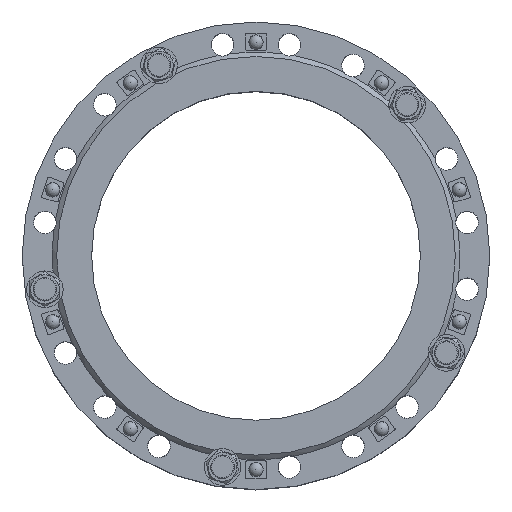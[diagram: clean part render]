
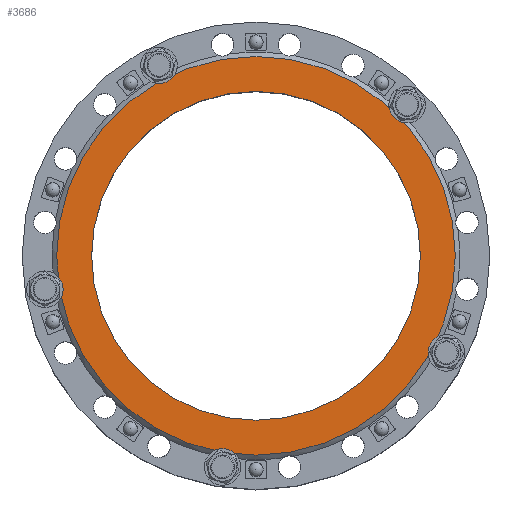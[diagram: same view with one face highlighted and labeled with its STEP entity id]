
A CAD part, top view. The second image highlights one B-rep face of the part: STEP entity #3686.
In plain terms, the highlighted planar face has unit normal (0, 0, 1) as drawn and (0, 0, -1) by its records, which use the part's own axes.
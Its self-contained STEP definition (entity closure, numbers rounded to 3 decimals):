
#3686=ADVANCED_FACE('',(#5786,#5788),#5790,.F.);
#5786=FACE_BOUND('',#5787,.T.);
#5787=EDGE_LOOP('',(#8443));
#5788=FACE_BOUND('',#5789,.T.);
#5789=EDGE_LOOP('',(#8444));
#5790=PLANE('',#5791);
#5791=AXIS2_PLACEMENT_3D('',#5792,#5793,#5794);
#5792=CARTESIAN_POINT('',(0.,0.,0.));
#5793=DIRECTION('',(0.,0.,1.));
#5794=DIRECTION('',(-1.,0.,0.));
#8443=ORIENTED_EDGE('',*,*,#9497,.F.);
#8444=ORIENTED_EDGE('',*,*,#9659,.T.);
#9497=EDGE_CURVE('',#10887,#10887,#10888,.T.);
#9659=EDGE_CURVE('',#11131,#11131,#11132,.T.);
#10887=VERTEX_POINT('',#19501);
#10888=CIRCLE('',#19502,272.8);
#11131=VERTEX_POINT('',#20111);
#11132=CIRCLE('',#20112,225.);
#19501=CARTESIAN_POINT('',(-272.8,0.,0.));
#19502=AXIS2_PLACEMENT_3D('',#19503,#19504,#19505);
#19503=CARTESIAN_POINT('',(0.,0.,0.));
#19504=DIRECTION('',(0.,0.,1.));
#19505=DIRECTION('',(-1.,0.,0.));
#20111=CARTESIAN_POINT('',(-225.,0.,0.));
#20112=AXIS2_PLACEMENT_3D('',#20113,#20114,#20115);
#20113=CARTESIAN_POINT('',(0.,0.,0.));
#20114=DIRECTION('',(0.,0.,1.));
#20115=DIRECTION('',(-1.,0.,0.));
